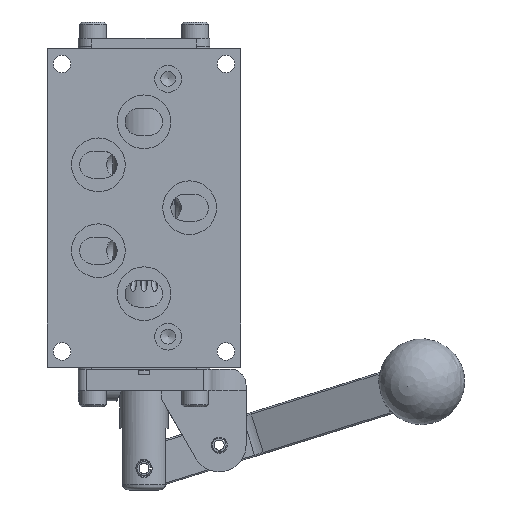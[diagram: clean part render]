
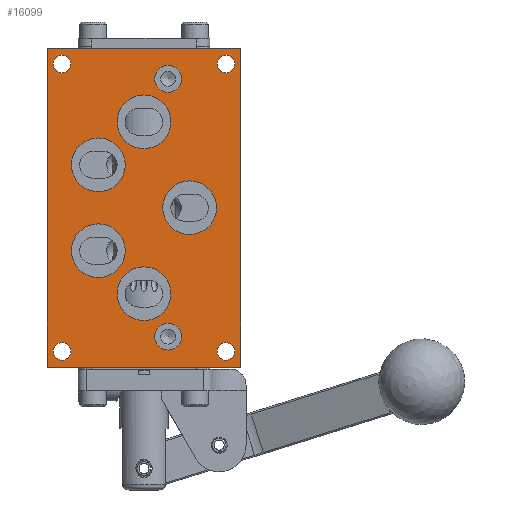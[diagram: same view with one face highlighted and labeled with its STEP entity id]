
A CAD part, front view. The second image highlights one B-rep face of the part: STEP entity #16099.
In plain terms, the highlighted planar face has unit normal (0, -1, 0).
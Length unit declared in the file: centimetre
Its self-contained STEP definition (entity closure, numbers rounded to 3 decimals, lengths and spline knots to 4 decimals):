
#1026=FACE_BOUND('',#2304,.T.);
#1027=FACE_BOUND('',#2305,.T.);
#1028=FACE_BOUND('',#2306,.T.);
#1029=FACE_BOUND('',#2307,.T.);
#1030=FACE_BOUND('',#2308,.T.);
#1031=FACE_BOUND('',#2309,.T.);
#1032=FACE_BOUND('',#2310,.T.);
#1033=FACE_BOUND('',#2311,.T.);
#1034=FACE_BOUND('',#2312,.T.);
#1035=FACE_BOUND('',#2313,.T.);
#1036=FACE_BOUND('',#2314,.T.);
#1295=FACE_OUTER_BOUND('',#2303,.T.);
#2303=EDGE_LOOP('',(#10846,#10847,#10848,#10849));
#2304=EDGE_LOOP('',(#10850));
#2305=EDGE_LOOP('',(#10851));
#2306=EDGE_LOOP('',(#10852));
#2307=EDGE_LOOP('',(#10853));
#2308=EDGE_LOOP('',(#10854));
#2309=EDGE_LOOP('',(#10855));
#2310=EDGE_LOOP('',(#10856));
#2311=EDGE_LOOP('',(#10857));
#2312=EDGE_LOOP('',(#10858));
#2313=EDGE_LOOP('',(#10859));
#2314=EDGE_LOOP('',(#10860));
#3387=CIRCLE('',#17256,0.3962);
#3391=CIRCLE('',#17264,0.3962);
#3393=CIRCLE('',#17269,0.7938);
#3395=CIRCLE('',#17273,0.7938);
#3397=CIRCLE('',#17277,0.7938);
#3399=CIRCLE('',#17281,0.7938);
#3401=CIRCLE('',#17285,0.7938);
#3404=CIRCLE('',#17290,0.258);
#3407=CIRCLE('',#17295,0.258);
#3410=CIRCLE('',#17300,0.258);
#3413=CIRCLE('',#17305,0.258);
#4178=LINE('',#23893,#5249);
#4192=LINE('',#23937,#5263);
#4319=LINE('',#24751,#5390);
#4320=LINE('',#24755,#5391);
#5249=VECTOR('',#19081,1.);
#5263=VECTOR('',#19113,1.);
#5390=VECTOR('',#19732,1.);
#5391=VECTOR('',#19739,1.);
#6339=VERTEX_POINT('',#23889);
#6341=VERTEX_POINT('',#23892);
#6360=VERTEX_POINT('',#23933);
#6362=VERTEX_POINT('',#23936);
#6510=VERTEX_POINT('',#24632);
#6515=VERTEX_POINT('',#24648);
#6517=VERTEX_POINT('',#24657);
#6519=VERTEX_POINT('',#24664);
#6521=VERTEX_POINT('',#24671);
#6523=VERTEX_POINT('',#24678);
#6525=VERTEX_POINT('',#24685);
#6529=VERTEX_POINT('',#24697);
#6533=VERTEX_POINT('',#24709);
#6537=VERTEX_POINT('',#24721);
#6541=VERTEX_POINT('',#24733);
#7867=EDGE_CURVE('',#6341,#6339,#4178,.T.);
#7888=EDGE_CURVE('',#6362,#6360,#4192,.T.);
#8106=EDGE_CURVE('',#6510,#6510,#3387,.T.);
#8113=EDGE_CURVE('',#6515,#6515,#3391,.T.);
#8117=EDGE_CURVE('',#6517,#6517,#3393,.T.);
#8120=EDGE_CURVE('',#6519,#6519,#3395,.T.);
#8123=EDGE_CURVE('',#6521,#6521,#3397,.T.);
#8126=EDGE_CURVE('',#6523,#6523,#3399,.T.);
#8129=EDGE_CURVE('',#6525,#6525,#3401,.T.);
#8136=EDGE_CURVE('',#6529,#6529,#3404,.T.);
#8142=EDGE_CURVE('',#6533,#6533,#3407,.T.);
#8148=EDGE_CURVE('',#6537,#6537,#3410,.T.);
#8154=EDGE_CURVE('',#6541,#6541,#3413,.T.);
#8163=EDGE_CURVE('',#6360,#6341,#4319,.T.);
#8164=EDGE_CURVE('',#6339,#6362,#4320,.T.);
#10846=ORIENTED_EDGE('',*,*,#7888,.T.);
#10847=ORIENTED_EDGE('',*,*,#8163,.T.);
#10848=ORIENTED_EDGE('',*,*,#7867,.T.);
#10849=ORIENTED_EDGE('',*,*,#8164,.T.);
#10850=ORIENTED_EDGE('',*,*,#8106,.T.);
#10851=ORIENTED_EDGE('',*,*,#8113,.T.);
#10852=ORIENTED_EDGE('',*,*,#8117,.T.);
#10853=ORIENTED_EDGE('',*,*,#8120,.T.);
#10854=ORIENTED_EDGE('',*,*,#8123,.T.);
#10855=ORIENTED_EDGE('',*,*,#8126,.T.);
#10856=ORIENTED_EDGE('',*,*,#8129,.T.);
#10857=ORIENTED_EDGE('',*,*,#8136,.T.);
#10858=ORIENTED_EDGE('',*,*,#8142,.T.);
#10859=ORIENTED_EDGE('',*,*,#8148,.T.);
#10860=ORIENTED_EDGE('',*,*,#8154,.T.);
#14683=PLANE('',#17316);
#16099=ADVANCED_FACE('',(#1295,#1026,#1027,#1028,#1029,#1030,#1031,#1032,
#1033,#1034,#1035,#1036),#14683,.T.);
#17256=AXIS2_PLACEMENT_3D('',#24633,#19588,#19589);
#17264=AXIS2_PLACEMENT_3D('',#24649,#19607,#19608);
#17269=AXIS2_PLACEMENT_3D('',#24658,#19619,#19620);
#17273=AXIS2_PLACEMENT_3D('',#24665,#19628,#19629);
#17277=AXIS2_PLACEMENT_3D('',#24672,#19637,#19638);
#17281=AXIS2_PLACEMENT_3D('',#24679,#19646,#19647);
#17285=AXIS2_PLACEMENT_3D('',#24686,#19655,#19656);
#17290=AXIS2_PLACEMENT_3D('',#24699,#19669,#19670);
#17295=AXIS2_PLACEMENT_3D('',#24711,#19682,#19683);
#17300=AXIS2_PLACEMENT_3D('',#24723,#19695,#19696);
#17305=AXIS2_PLACEMENT_3D('',#24735,#19708,#19709);
#17316=AXIS2_PLACEMENT_3D('',#24756,#19740,#19741);
#19081=DIRECTION('',(1.,0.,0.));
#19113=DIRECTION('',(-1.,0.,0.));
#19588=DIRECTION('center_axis',(0.,1.,0.));
#19589=DIRECTION('ref_axis',(1.,0.,0.));
#19607=DIRECTION('center_axis',(0.,1.,0.));
#19608=DIRECTION('ref_axis',(1.,0.,0.));
#19619=DIRECTION('center_axis',(0.,1.,0.));
#19620=DIRECTION('ref_axis',(1.,0.,0.));
#19628=DIRECTION('center_axis',(0.,1.,0.));
#19629=DIRECTION('ref_axis',(1.,0.,0.));
#19637=DIRECTION('center_axis',(0.,1.,0.));
#19638=DIRECTION('ref_axis',(1.,0.,0.));
#19646=DIRECTION('center_axis',(0.,1.,0.));
#19647=DIRECTION('ref_axis',(1.,0.,0.));
#19655=DIRECTION('center_axis',(0.,1.,0.));
#19656=DIRECTION('ref_axis',(1.,0.,0.));
#19669=DIRECTION('center_axis',(0.,1.,0.));
#19670=DIRECTION('ref_axis',(1.,0.,0.));
#19682=DIRECTION('center_axis',(0.,1.,0.));
#19683=DIRECTION('ref_axis',(1.,0.,0.));
#19695=DIRECTION('center_axis',(0.,1.,0.));
#19696=DIRECTION('ref_axis',(1.,0.,0.));
#19708=DIRECTION('center_axis',(0.,1.,0.));
#19709=DIRECTION('ref_axis',(1.,0.,0.));
#19732=DIRECTION('',(0.,0.,-1.));
#19739=DIRECTION('',(0.,0.,1.));
#19740=DIRECTION('center_axis',(0.,-1.,0.));
#19741=DIRECTION('ref_axis',(0.,0.,-1.));
#23889=CARTESIAN_POINT('',(2.8575,-1.6358,-4.7104));
#23892=CARTESIAN_POINT('',(-2.8575,-1.6358,-4.7104));
#23893=CARTESIAN_POINT('',(-2.8575,-1.6358,-4.7104));
#23933=CARTESIAN_POINT('',(-2.8575,-1.6358,4.7104));
#23936=CARTESIAN_POINT('',(2.8575,-1.6358,4.7104));
#23937=CARTESIAN_POINT('',(-2.8575,-1.6358,4.7104));
#24632=CARTESIAN_POINT('',(0.3175,-1.6358,-3.81));
#24633=CARTESIAN_POINT('Origin',(0.7137,-1.6358,-3.81));
#24648=CARTESIAN_POINT('',(0.3175,-1.6358,3.81));
#24649=CARTESIAN_POINT('Origin',(0.7137,-1.6358,3.81));
#24657=CARTESIAN_POINT('',(0.555,-1.6358,0.));
#24658=CARTESIAN_POINT('Origin',(1.3487,-1.6358,0.));
#24664=CARTESIAN_POINT('',(-0.7938,-1.6358,-2.54));
#24665=CARTESIAN_POINT('Origin',(0.,-1.6358,-2.54));
#24671=CARTESIAN_POINT('',(-0.7938,-1.6358,2.54));
#24672=CARTESIAN_POINT('Origin',(0.,-1.6358,2.54));
#24678=CARTESIAN_POINT('',(-2.1425,-1.6358,-1.27));
#24679=CARTESIAN_POINT('Origin',(-1.3487,-1.6358,-1.27));
#24685=CARTESIAN_POINT('',(-2.1425,-1.6358,1.27));
#24686=CARTESIAN_POINT('Origin',(-1.3487,-1.6358,1.27));
#24697=CARTESIAN_POINT('',(-2.6786,-1.6358,4.2469));
#24699=CARTESIAN_POINT('Origin',(-2.4206,-1.6358,4.2469));
#24709=CARTESIAN_POINT('',(2.1627,-1.6358,4.2469));
#24711=CARTESIAN_POINT('Origin',(2.4206,-1.6358,4.2469));
#24721=CARTESIAN_POINT('',(2.1627,-1.6358,-4.2469));
#24723=CARTESIAN_POINT('Origin',(2.4206,-1.6358,-4.2469));
#24733=CARTESIAN_POINT('',(-2.6786,-1.6358,-4.2469));
#24735=CARTESIAN_POINT('Origin',(-2.4206,-1.6358,-4.2469));
#24751=CARTESIAN_POINT('',(-2.8575,-1.6358,0.));
#24755=CARTESIAN_POINT('',(2.8575,-1.6358,0.));
#24756=CARTESIAN_POINT('Origin',(2.8575,-1.6358,0.));
